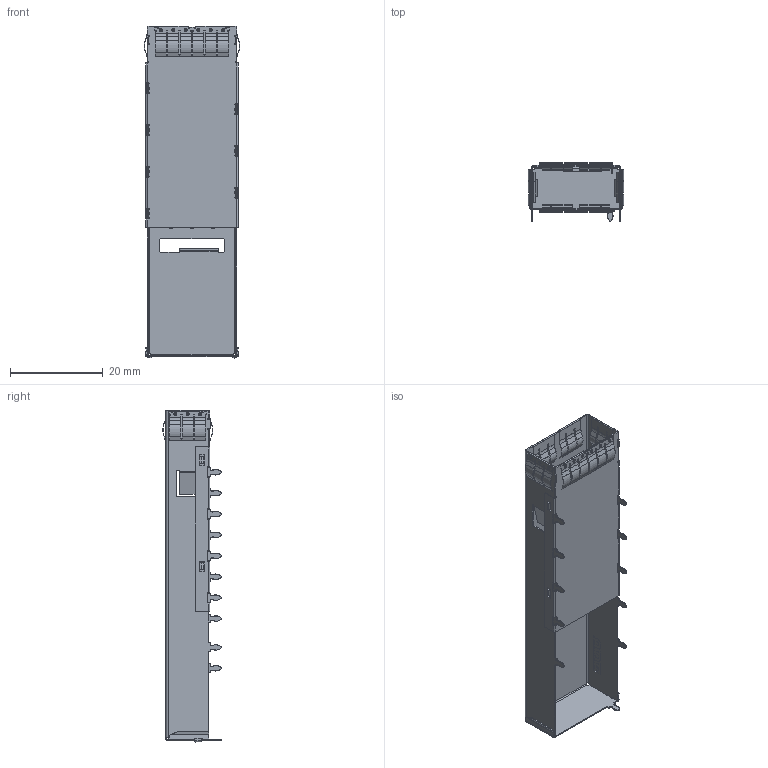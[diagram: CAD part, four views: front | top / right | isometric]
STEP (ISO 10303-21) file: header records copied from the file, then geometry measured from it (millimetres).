
FILE_DESCRIPTION (( 'STEP AP214' ), '1' );
FILE_NAME ('SD10-0000040000-0000-X.STEP', '2021-06-16T03:30:45', ( '' ), ( '' ), 'SwSTEP 2.0', 'SolidWorks 2012', '' );
FILE_SCHEMA (( 'AUTOMOTIVE_DESIGN' ));
Length unit declared in the file: millimetre
Products named in the file (1): SD10-0000040000-0000-X
Bounding box: 20.55 x 12.6 x 71.47 mm (x, y, z)
Volume: 979.4 mm3; surface area: 8922.7 mm2
Topology: 6 solids, 6 shells, 2080 faces, 5374 edges, 3284 vertices
Faces by surface type: plane 1100, cylinder 790, sphere 72, torus 72, bspline 46
Entity records: 89684 total; most frequent: CARTESIAN_POINT 15324, DIRECTION 10924, ORIENTED_EDGE 10748, EDGE_CURVE 5374, AXIS2_PLACEMENT_3D 3795, VECTOR 3334, LINE 3334, VERTEX_POINT 3284
